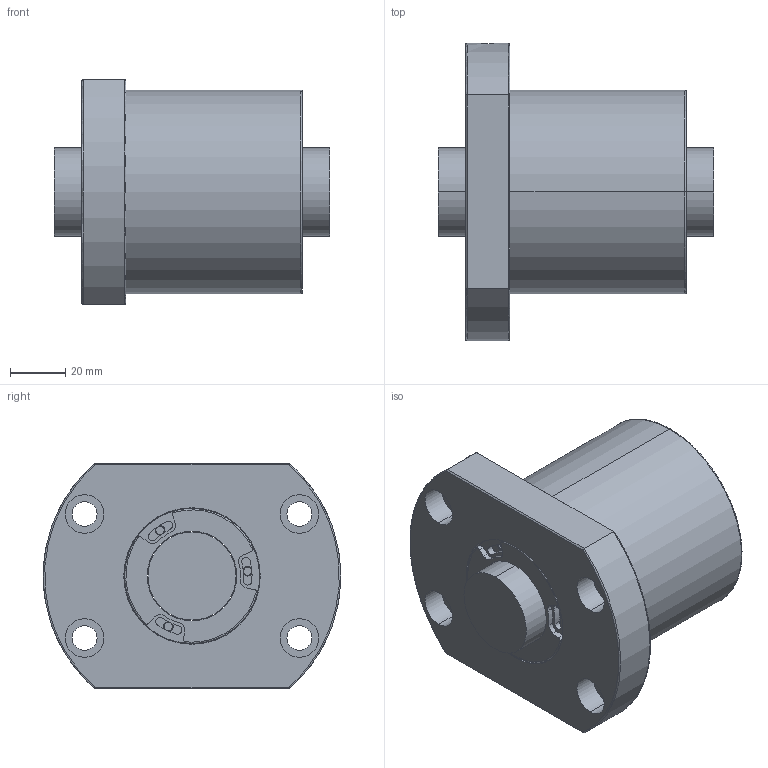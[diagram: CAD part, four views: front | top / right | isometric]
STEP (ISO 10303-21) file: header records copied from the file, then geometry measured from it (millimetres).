
FILE_DESCRIPTION (( 'STEP AP203' ), '1' );
FILE_NAME ('SFVSR03220B1D-C.STEP', '2020-06-17T05:31:06', ( '' ), ( '' ), 'SwSTEP 2.0', 'SolidWorks 2013', '' );
FILE_SCHEMA (( 'CONFIG_CONTROL_DESIGN' ));
Length unit declared in the file: millimetre
Products named in the file (1): SFVSR03220B1D-C
Bounding box: 100 x 108 x 82 mm (x, y, z)
Volume: 402874.3 mm3; surface area: 60739.7 mm2
Topology: 2 solids, 2 shells, 241 faces, 590 edges, 377 vertices
Faces by surface type: cylinder 136, plane 79, bspline 14, cone 12
Entity records: 7953 total; most frequent: CARTESIAN_POINT 1996, DIRECTION 1350, ORIENTED_EDGE 1180, EDGE_CURVE 590, AXIS2_PLACEMENT_3D 573, VERTEX_POINT 377, CIRCLE 345, EDGE_LOOP 277
